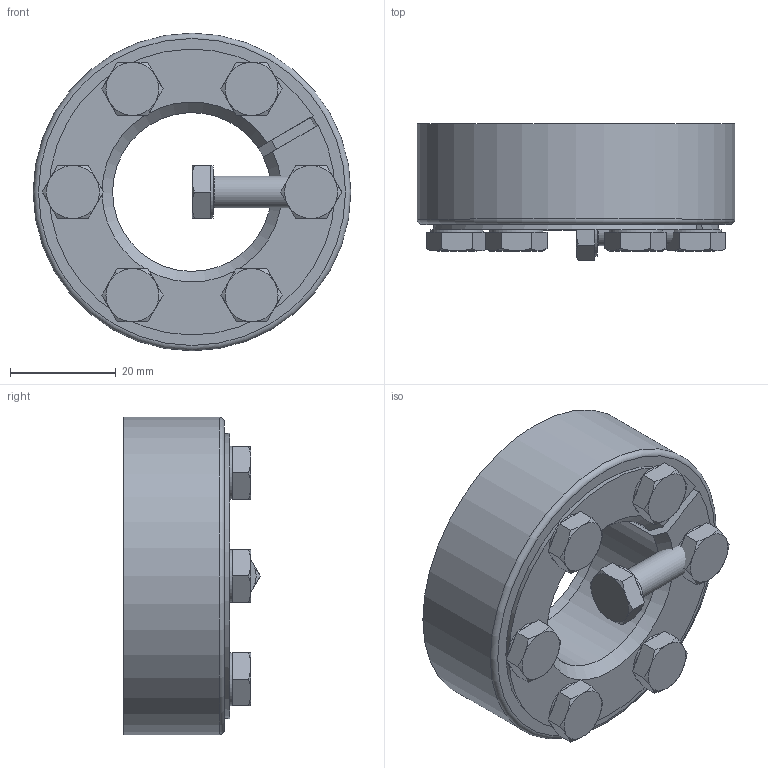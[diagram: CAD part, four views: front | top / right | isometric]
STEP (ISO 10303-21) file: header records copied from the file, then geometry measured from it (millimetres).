
FILE_DESCRIPTION( ( 'Unknown' ), '1' );
FILE_NAME( 'C:/Dokumente und Einstellungen/Sven/Desktop/homepage/cad - homepage/KBS19-1/KBS 19_1 - 30 x 60.stp', 'Unknown', ( 'Unknown' ), ( 'Unknown' ), 'XStep 1.0', 'Unknown', ' ' );
FILE_SCHEMA( ( 'automotive_design' ) );
Length unit declared in the file: millimetre
Products named in the file (3): Assem1; KBS 19_1 - 30 x 60; ISO 4017 - M6 x 16-N
Bounding box: 60 x 25.77 x 60 mm (x, y, z)
Volume: 81679.2 mm3; surface area: 27796.9 mm2
Topology: 9 solids, 9 shells, 217 faces, 486 edges, 294 vertices
Faces by surface type: plane 123, cone 55, cylinder 30, torus 9
Full cylindrical faces by diameter (mm): 6 x19, 10 x7, 60 x2
Entity records: 1570 total; most frequent: CARTESIAN_POINT 269, DIRECTION 224, ORIENTED_EDGE 190, EDGE_CURVE 95, AXIS2_PLACEMENT_3D 93, EDGE_LOOP 73, VERTEX_POINT 66, FACE_OUTER_BOUND 57
